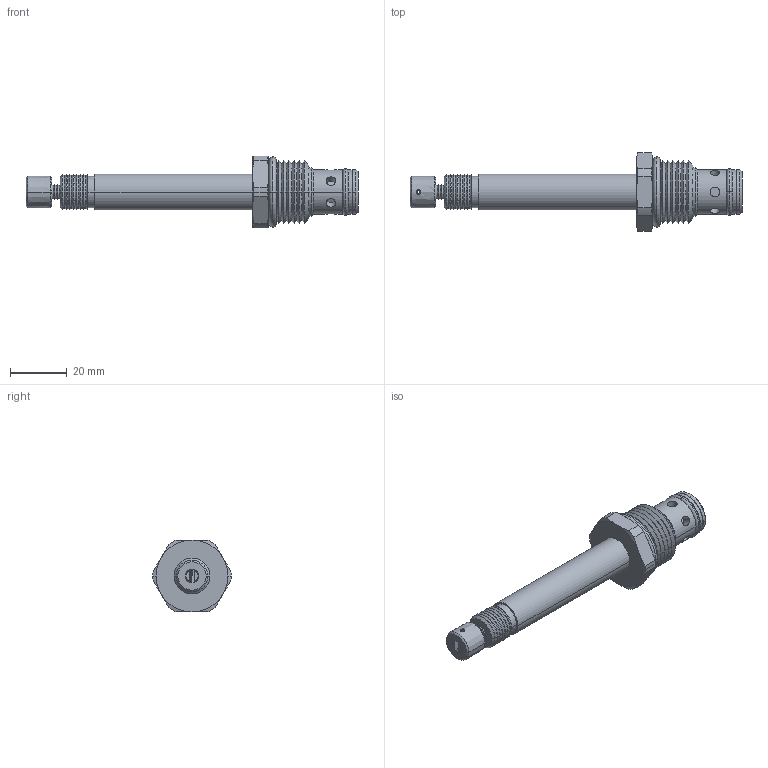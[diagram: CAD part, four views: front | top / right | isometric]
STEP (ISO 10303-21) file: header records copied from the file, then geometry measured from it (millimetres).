
FILE_DESCRIPTION((''),'2;1');
FILE_NAME('U:\Solid model CD\Solid model full\Solenoid\STEP\DES2C0K-3D Full.stp','2008-06-23T08:20:44',('Dan'),(''),'Autodesk Inventor 9','Autodesk Inventor 9','');
FILE_SCHEMA(('AUTOMOTIVE_DESIGN { 1 0 10303 214 1 1 1 1 }'));
Length unit declared in the file: inch
Products named in the file (7): DES2C0K-3D Full; DES2C0K-3D Full1; DES2C0K-3D Full2; DES2C0K-3D Full3; DES2C0K-3D Full4; DES2C0K-3D Full5; DES2C0K-3D Full6
Assembly tree (6 placements, depth 2):
  DES2C0K-3D Full
    DES2C0K-3D Full1
    DES2C0K-3D Full2
    DES2C0K-3D Full3
    DES2C0K-3D Full4
    DES2C0K-3D Full5
    DES2C0K-3D Full6
Bounding box: 117.52 x 27.76 x 25.4 mm (x, y, z)
Volume: 20573.8 mm3; surface area: 9156.4 mm2
Topology: 6 solids, 6 shells, 312 faces, 703 edges, 413 vertices
Faces by surface type: bspline 147, cone 84, cylinder 44, plane 25, torus 12
Entity records: 11336 total; most frequent: CARTESIAN_POINT 4658, ORIENTED_EDGE 1410, DIRECTION 1358, EDGE_CURVE 705, AXIS2_PLACEMENT_3D 559, VERTEX_POINT 415, CIRCLE 381, EDGE_LOOP 334
